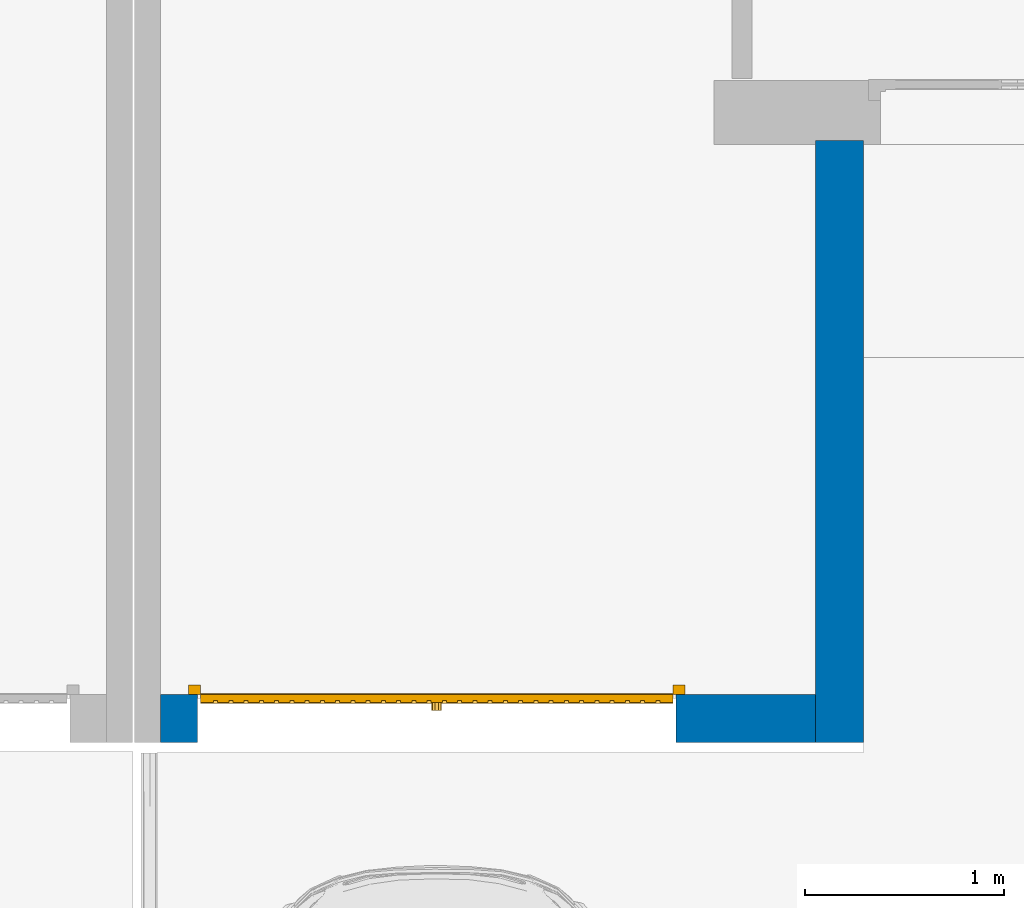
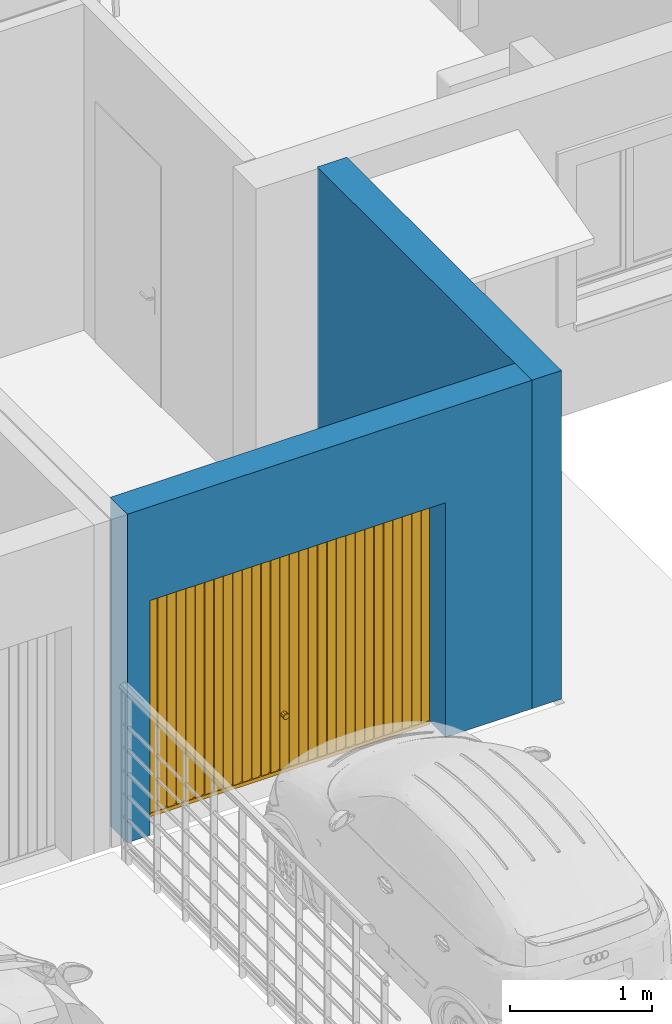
# One storey, part 6 of 33: 2 walls, 1 door, 1 opening.
"""IFC2X3 building model written with IfcOpenShell, lengths in metres."""

from ifc_helpers import new_model, entity, si_unit, converted_unit, derived_unit, direction, frame, frame_2d, origin, origin_2d_with_axis, place, context, subcontext, project, spatial, rectangle, extrude, faceted_brep, source, transform, mapped, material, material_list, layer, layer_set, layer_usage, type_object, type_shapes, element, fill, save


model = new_model("IFC2X3")

# Units and contexts
model_context = context("Model", 3, precision=1e-05, world=origin(), true_north=direction((6.12303176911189e-17, 1.0)))
context_of_model = context(None, 3, precision=1e-05, world=origin(), true_north=direction((6.12303176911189e-17, 1.0)))
body_context = subcontext(model_context, "Body", "Model", "MODEL_VIEW")
ifc_project = project(units=[si_unit("LENGTHUNIT", "METRE"), si_unit("AREAUNIT", "SQUARE_METRE"), si_unit("VOLUMEUNIT", "CUBIC_METRE"), converted_unit("PLANEANGLEUNIT", "DEGREE", entity("IfcRatioMeasure", 0.0174532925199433), si_unit("PLANEANGLEUNIT", "RADIAN"), dimensions=[0, 0, 0, 0, 0, 0, 0]), si_unit("MASSUNIT", "GRAM", prefix="KILO"), si_unit("TIMEUNIT", "SECOND"), si_unit("FREQUENCYUNIT", "HERTZ"), si_unit("THERMODYNAMICTEMPERATUREUNIT", "DEGREE_CELSIUS"), derived_unit("THERMALTRANSMITTANCEUNIT", [(si_unit("MASSUNIT", "GRAM", prefix="KILO"), 1), (si_unit("THERMODYNAMICTEMPERATUREUNIT", "KELVIN"), -1), (si_unit("TIMEUNIT", "SECOND"), -3)]), derived_unit("VOLUMETRICFLOWRATEUNIT", [(si_unit("LENGTHUNIT", "METRE"), 3), (si_unit("TIMEUNIT", "SECOND"), -1)]), si_unit("ELECTRICCURRENTUNIT", "AMPERE"), si_unit("ELECTRICVOLTAGEUNIT", "VOLT"), si_unit("POWERUNIT", "WATT"), si_unit("FORCEUNIT", "NEWTON", prefix="KILO"), si_unit("ILLUMINANCEUNIT", "LUX"), si_unit("LUMINOUSFLUXUNIT", "LUMEN"), si_unit("LUMINOUSINTENSITYUNIT", "CANDELA"), si_unit("PRESSUREUNIT", "PASCAL")], contexts=[model_context, context_of_model])

# Site, building, storey
site_placement = place(None, origin())
site = spatial("IfcSite", under=ifc_project, at=site_placement, Name="Surface", CompositionType="ELEMENT")
building_placement = place(site_placement, origin())
building = spatial("IfcBuilding", under=site, at=building_placement, CompositionType="ELEMENT")
storey_placement = place(building_placement, origin())
storey = spatial("IfcBuildingStorey", under=building, at=storey_placement, Name="Plan des fondations  Maisons 1 et 2", CompositionType="ELEMENT", Elevation=0.0)

# Wall
ifc_material_1 = material(Name="Enduit  gris")
ifc_layer_1 = layer(ifc_material_1, 0.02)
ifc_material_2 = material(Name="Parpaing")
ifc_layer_2 = layer(ifc_material_2, 0.2)
ifc_layer_3 = layer(ifc_material_1, 0.02)
ifc_layer_set = layer_set([ifc_layer_1, ifc_layer_2, ifc_layer_3], Name="Mur de base:Ext. Parpaing 2 + 20 + 2 gris")
ifc_layer_usage_1 = layer_usage(ifc_layer_set, "AXIS2", "NEGATIVE", 0.12)
wall_type = type_object("IfcWallType", Name="Mur de base:Ext. Parpaing 2 + 20 + 2 gris", PredefinedType="STANDARD", material=ifc_layer_set)
wall_1_placement = place(storey_placement, frame((72.3746263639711, 76.8877566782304, 0.0), z_axis=(0.0, 0.0, 1.0), x_axis=(0.0, 1.0, 0.0)))
element("IfcWallStandardCase", 1, at=wall_1_placement, inside=storey, type_object=wall_type, material=ifc_layer_usage_1, Name="Mur de base:Ext. Parpaing 2 + 20 + 2 gris", ObjectType="Mur de base:Ext. Parpaing 2 + 20 + 2 gris", context=body_context, shape_type="SweptSolid", body=[
    extrude(rectangle(XDim=3.02000000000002, YDim=0.239999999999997, at=frame_2d((1.51000000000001, 5.41233724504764e-16), x_axis=(-1.0, 0.0))), origin(), (0.0, 0.0, 1.0), 2.82),
])

# Wall, opening, door
ifc_layer_usage_2 = layer_usage(ifc_layer_set, "AXIS2", "NEGATIVE", 0.12)
wall_2_placement = place(storey_placement, frame((68.9696263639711, 77.0077566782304, 0.0)))
wall_2 = element("IfcWallStandardCase", 2, at=wall_2_placement, inside=storey, type_object=wall_type, material=ifc_layer_usage_2, Name="Mur de base:Ext. Parpaing 2 + 20 + 2 gris", ObjectType="Mur de base:Ext. Parpaing 2 + 20 + 2 gris", context=body_context, shape_type="SweptSolid", body=[
    extrude(rectangle(XDim=3.28499999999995, YDim=0.239999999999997, at=frame_2d((1.64249999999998, 0.0), x_axis=(-1.0, 0.0))), origin(), (0.0, 0.0, 1.0), 2.82),
])
opening_placement = place(wall_2_placement, frame((-68.9696263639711, -77.0077566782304, 0.0)))
opening = element("IfcOpeningElement", 3, at=opening_placement, cuts=wall_2, Name="Mur de base:Ext. Parpaing 2 + 20 + 2 gris", ObjectType="Opening", context=body_context, shape_type="SweptSolid", body=[
    extrude(rectangle(XDim=2.01500000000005, YDim=2.39999999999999, at=origin_2d_with_axis()), frame((70.3546263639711, 76.5877566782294, 1.00750000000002), z_axis=(0.0, 1.0, 0.0), x_axis=(0.0, 0.0, -1.0)), (0.0, 0.0, 1.0), 0.840000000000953),
])
ifc_material_3 = material(Name="Plastique - Noir")
ifc_material_4 = material(Name="Peinture - Grise")
ifc_material_list_1 = material_list([ifc_material_3, ifc_material_4])
ifc_material_list_2 = material_list([ifc_material_3, ifc_material_4])
door_style = type_object("IfcDoorStyle", Name="2.4m x 2m", ConstructionType="NOTDEFINED", OperationType="ROLLINGUP", ParameterTakesPrecedence=False, Sizeable=False, material=ifc_material_list_2)
shared_shape = source(origin(), body_context, "Body", "Brep", [
    faceted_brep([(1.17823441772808, 0.377902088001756, 0.490045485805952), (1.17738728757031, 0.377902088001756, 0.492652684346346), (1.17669426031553, 0.377902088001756, 0.494785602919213), (1.175, 0.377902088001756, 0.500000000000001), (1.17709791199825, 0.380000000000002, 0.500000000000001), (1.17928486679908, 0.380000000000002, 0.493269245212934), (1.18147182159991, 0.380000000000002, 0.486538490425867), (1.17977457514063, 0.377902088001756, 0.485305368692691), (1.21993909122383, 0.380000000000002, 0.490880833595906), (1.22135000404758, 0.380000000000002, 0.495223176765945), (1.22290208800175, 0.380000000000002, 0.500000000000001), (1.225, 0.377902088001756, 0.500000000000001), (1.22261271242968, 0.377902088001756, 0.492652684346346), (1.22022542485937, 0.377902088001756, 0.485305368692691), (1.21852817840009, 0.380000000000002, 0.486538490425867), (1.21397542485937, 0.377902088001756, 0.480764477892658), (1.20772542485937, 0.377902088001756, 0.476223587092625), (1.20707713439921, 0.380000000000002, 0.478218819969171), (1.21280265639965, 0.380000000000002, 0.482378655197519), (1.19292286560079, 0.380000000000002, 0.478218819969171), (1.2, 0.380000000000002, 0.478218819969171), (1.2, 0.377902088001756, 0.476223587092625), (1.19227457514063, 0.377902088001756, 0.476223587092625), (1.18602457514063, 0.377902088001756, 0.480764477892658), (1.18719734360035, 0.380000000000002, 0.482378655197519), (1.22176558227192, 0.377902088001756, 0.509954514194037), (1.22261271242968, 0.377902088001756, 0.507347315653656), (1.22330573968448, 0.377902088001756, 0.505214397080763), (1.22071513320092, 0.380000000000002, 0.506730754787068), (1.21852817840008, 0.380000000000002, 0.513461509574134), (1.22022542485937, 0.377902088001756, 0.514694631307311), (1.18006090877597, 0.380000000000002, 0.5091191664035), (1.17864999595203, 0.380000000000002, 0.504776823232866), (1.17738728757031, 0.377902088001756, 0.507347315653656), (1.17977457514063, 0.377902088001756, 0.514694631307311), (1.18147182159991, 0.380000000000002, 0.513461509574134), (1.18602457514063, 0.377902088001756, 0.519235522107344), (1.19227457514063, 0.377902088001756, 0.523776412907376), (1.19292286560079, 0.380000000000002, 0.521781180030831), (1.18719734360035, 0.380000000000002, 0.517621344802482), (1.20707713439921, 0.380000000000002, 0.521781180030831), (1.2, 0.380000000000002, 0.521781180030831), (1.2, 0.377902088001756, 0.523776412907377), (1.20772542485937, 0.377902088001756, 0.523776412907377), (1.21397542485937, 0.377902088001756, 0.519235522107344), (1.21280265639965, 0.380000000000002, 0.517621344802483), (1.2, 0.380000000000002, 0.500000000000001), (1.2, 0.340000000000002, 0.500000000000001), (1.17977457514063, 0.340000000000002, 0.485305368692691), (1.18602457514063, 0.340000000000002, 0.480764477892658), (1.19227457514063, 0.340000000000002, 0.476223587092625), (1.2, 0.340000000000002, 0.476223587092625), (1.17805454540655, 0.340000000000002, 0.490599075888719), (1.17652727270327, 0.340000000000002, 0.49529953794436), (1.175, 0.340000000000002, 0.500000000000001), (1.20772542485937, 0.340000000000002, 0.476223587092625), (1.21397542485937, 0.340000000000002, 0.480764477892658), (1.22022542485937, 0.340000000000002, 0.485305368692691), (1.22261271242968, 0.340000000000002, 0.492652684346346), (1.22499999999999, 0.340000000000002, 0.500000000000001), (1.22347272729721, 0.340000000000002, 0.50470046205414), (1.17738728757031, 0.340000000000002, 0.507347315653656), (1.17977457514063, 0.340000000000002, 0.514694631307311), (1.18602457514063, 0.340000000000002, 0.519235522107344), (1.19227457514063, 0.340000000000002, 0.523776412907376), (1.22194545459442, 0.340000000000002, 0.509400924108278), (1.22022542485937, 0.340000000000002, 0.514694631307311), (1.21397542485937, 0.340000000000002, 0.519235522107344), (1.20772542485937, 0.340000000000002, 0.523776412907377), (1.2, 0.340000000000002, 0.523776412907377)], [[[0, 1, 2, 3, 4, 5, 6, 7]], [[8, 9, 10, 11, 12, 13, 14]], [[13, 15, 16, 17, 18, 14]], [[19, 20, 17, 16, 21, 22]], [[22, 23, 7, 6, 24, 19]], [[25, 26, 27, 11, 10, 28, 29, 30]], [[31, 32, 4, 3, 33, 34, 35]], [[34, 36, 37, 38, 39, 35]], [[40, 41, 38, 37, 42, 43]], [[43, 44, 30, 29, 45, 40]], [[46, 19, 24]], [[46, 24, 6]], [[46, 6, 5]], [[46, 5, 4]], [[46, 4, 32]], [[46, 20, 19]], [[46, 17, 20]], [[46, 18, 17]], [[46, 14, 18]], [[46, 8, 14]], [[46, 9, 8]], [[46, 10, 9]], [[46, 32, 31]], [[46, 31, 35]], [[46, 35, 39]], [[46, 39, 38]], [[46, 38, 41]], [[46, 28, 10]], [[46, 29, 28]], [[46, 45, 29]], [[46, 40, 45]], [[46, 41, 40]], [[47, 48, 49]], [[47, 49, 50]], [[47, 50, 51]], [[47, 52, 48]], [[47, 53, 52]], [[47, 54, 53]], [[47, 51, 55]], [[47, 55, 56]], [[47, 56, 57]], [[47, 57, 58]], [[47, 58, 59]], [[47, 59, 60]], [[47, 61, 54]], [[47, 62, 61]], [[47, 63, 62]], [[47, 64, 63]], [[47, 60, 65]], [[47, 65, 66]], [[47, 66, 67]], [[47, 67, 68]], [[47, 68, 69]], [[47, 69, 64]], [[13, 57, 56, 55, 16, 15]], [[57, 13, 12, 11, 59, 58]], [[52, 53, 54, 3, 2, 1, 0, 7, 48]], [[21, 16, 55, 51, 50, 22]], [[50, 49, 48, 7, 23, 22]], [[62, 63, 64, 37, 36, 34]], [[33, 3, 54, 61, 62, 34]], [[65, 60, 59, 11, 27, 26, 25, 30, 66]], [[42, 37, 64, 69, 68, 43]], [[68, 67, 66, 30, 44, 43]]]),
    faceted_brep([(0.0149999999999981, 0.29500000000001, 2.0), (2.385, 0.294999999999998, 2.0), (2.385, 0.344999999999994, 2.0), (0.0149999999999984, 0.345000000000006, 2.0), (2.385, 0.294999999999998, 0.0), (0.0149999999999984, 0.29500000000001, 0.0), (0.0149999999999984, 0.344999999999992, 0.0), (2.385, 0.344999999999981, 0.0), (2.31854838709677, 0.330000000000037, 1.97), (2.31854838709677, 0.330000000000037, 0.0300000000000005), (2.29854838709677, 0.330000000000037, 0.0300000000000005), (2.29854838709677, 0.330000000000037, 1.97), (2.29854838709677, 0.339999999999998, 0.0300000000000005), (2.29854838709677, 0.339999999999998, 1.97), (2.24209677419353, 0.339999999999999, 0.0300000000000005), (2.24209677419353, 0.339999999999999, 1.97), (2.24209677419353, 0.330000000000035, 0.0300000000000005), (2.24209677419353, 0.330000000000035, 1.97), (2.22209677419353, 0.330000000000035, 0.0300000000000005), (2.22209677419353, 0.330000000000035, 1.97), (2.22209677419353, 0.339999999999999, 0.0300000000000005), (2.22209677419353, 0.339999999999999, 1.97), (2.1656451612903, 0.339999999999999, 0.0300000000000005), (2.1656451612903, 0.339999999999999, 1.97), (2.1656451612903, 0.330000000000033, 0.0300000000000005), (2.1656451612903, 0.330000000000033, 1.97), (2.1456451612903, 0.330000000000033, 0.0300000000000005), (2.1456451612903, 0.330000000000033, 1.97), (2.1456451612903, 0.339999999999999, 0.0300000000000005), (2.1456451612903, 0.339999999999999, 1.97), (2.08919354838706, 0.339999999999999, 0.0300000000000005), (2.08919354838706, 0.339999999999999, 1.97), (2.08919354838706, 0.33000000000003, 0.0300000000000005), (2.08919354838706, 0.33000000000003, 1.97), (2.06919354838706, 0.330000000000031, 0.0300000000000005), (2.06919354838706, 0.330000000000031, 1.97), (2.06919354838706, 0.339999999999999, 0.0300000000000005), (2.06919354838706, 0.339999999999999, 1.97), (2.01274193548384, 0.339999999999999, 0.0300000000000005), (2.01274193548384, 0.339999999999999, 1.97), (2.01274193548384, 0.330000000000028, 0.0300000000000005), (2.01274193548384, 0.330000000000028, 1.97), (1.99274193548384, 0.330000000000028, 0.0300000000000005), (1.99274193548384, 0.330000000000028, 1.97), (1.99274193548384, 0.339999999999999, 0.0300000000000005), (1.99274193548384, 0.339999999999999, 1.97), (1.9362903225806, 0.34, 0.0300000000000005), (1.9362903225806, 0.34, 1.97), (1.9362903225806, 0.330000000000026, 0.0300000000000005), (1.9362903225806, 0.330000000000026, 1.97), (1.9162903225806, 0.330000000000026, 0.0300000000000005), (1.9162903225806, 0.330000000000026, 1.97), (1.9162903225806, 0.34, 0.0300000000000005), (1.9162903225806, 0.34, 1.97), (1.85983870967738, 0.34, 0.0300000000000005), (1.85983870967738, 0.34, 1.97), (1.85983870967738, 0.330000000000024, 0.0300000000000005), (1.85983870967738, 0.330000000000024, 1.97), (1.83983870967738, 0.330000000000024, 0.0300000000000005), (1.83983870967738, 0.330000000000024, 1.97), (1.83983870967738, 0.34, 0.0300000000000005), (1.83983870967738, 0.34, 1.97), (1.78338709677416, 0.34, 0.0300000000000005), (1.78338709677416, 0.34, 1.97), (1.78338709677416, 0.330000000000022, 0.0300000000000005), (1.78338709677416, 0.330000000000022, 1.97), (1.76338709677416, 0.330000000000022, 0.0300000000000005), (1.76338709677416, 0.330000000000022, 1.97), (1.76338709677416, 0.34, 0.0300000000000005), (1.76338709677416, 0.34, 1.97), (1.70693548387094, 0.34, 0.0300000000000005), (1.70693548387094, 0.34, 1.97), (1.70693548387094, 0.330000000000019, 0.0300000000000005), (1.70693548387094, 0.330000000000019, 1.97), (1.68693548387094, 0.330000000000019, 0.0300000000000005), (1.68693548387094, 0.330000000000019, 1.97), (1.68693548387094, 0.34, 0.0300000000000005), (1.68693548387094, 0.34, 1.97), (1.63048387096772, 0.340000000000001, 0.0300000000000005), (1.63048387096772, 0.340000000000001, 1.97), (1.63048387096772, 0.330000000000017, 0.0300000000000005), (1.63048387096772, 0.330000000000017, 1.97), (1.61048387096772, 0.330000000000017, 0.0300000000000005), (1.61048387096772, 0.330000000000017, 1.97), (1.61048387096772, 0.340000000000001, 0.0300000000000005), (1.61048387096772, 0.340000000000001, 1.97), (1.55403225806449, 0.340000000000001, 0.0300000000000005), (1.55403225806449, 0.340000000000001, 1.97), (1.55403225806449, 0.330000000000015, 0.0300000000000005), (1.55403225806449, 0.330000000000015, 1.97), (1.53403225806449, 0.330000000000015, 0.0300000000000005), (1.53403225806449, 0.330000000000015, 1.97), (1.53403225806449, 0.340000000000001, 0.0300000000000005), (1.53403225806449, 0.340000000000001, 1.97), (1.47758064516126, 0.340000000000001, 0.0300000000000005), (1.47758064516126, 0.340000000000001, 1.97), (1.47758064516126, 0.330000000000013, 0.0300000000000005), (1.47758064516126, 0.330000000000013, 1.97), (1.45758064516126, 0.330000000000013, 0.0300000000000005), (1.45758064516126, 0.330000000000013, 1.97), (1.45758064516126, 0.340000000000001, 0.0300000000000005), (1.45758064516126, 0.340000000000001, 1.97), (1.40112903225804, 0.340000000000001, 0.0300000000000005), (1.40112903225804, 0.340000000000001, 1.97), (1.40112903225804, 0.33000000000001, 0.0300000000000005), (1.40112903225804, 0.33000000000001, 1.97), (1.38112903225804, 0.33000000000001, 0.0300000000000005), (1.38112903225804, 0.33000000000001, 1.97), (1.38112903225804, 0.340000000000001, 0.0300000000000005), (1.38112903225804, 0.340000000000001, 1.97), (1.32467741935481, 0.340000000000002, 0.0300000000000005), (1.32467741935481, 0.340000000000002, 1.97), (1.32467741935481, 0.330000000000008, 0.0300000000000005), (1.32467741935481, 0.330000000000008, 1.97), (1.30467741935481, 0.330000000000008, 0.0300000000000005), (1.30467741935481, 0.330000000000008, 1.97), (1.30467741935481, 0.340000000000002, 0.0300000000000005), (1.30467741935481, 0.340000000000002, 1.97), (1.24822580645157, 0.340000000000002, 0.0300000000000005), (1.24822580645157, 0.340000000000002, 1.97), (1.24822580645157, 0.330000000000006, 0.0300000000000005), (1.24822580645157, 0.330000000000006, 1.97), (1.22822580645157, 0.330000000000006, 0.0300000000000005), (1.22822580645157, 0.330000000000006, 1.97), (1.22822580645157, 0.340000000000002, 0.0300000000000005), (1.22822580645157, 0.340000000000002, 1.97), (1.17177419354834, 0.340000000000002, 0.0300000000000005), (1.17177419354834, 0.340000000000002, 1.97), (1.17177419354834, 0.330000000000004, 0.0300000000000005), (1.17177419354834, 0.330000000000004, 1.97), (1.15177419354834, 0.330000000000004, 0.0300000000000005), (1.15177419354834, 0.330000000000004, 1.97), (1.15177419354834, 0.340000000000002, 0.0300000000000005), (1.15177419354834, 0.340000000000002, 1.97), (1.09532258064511, 0.340000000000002, 0.0300000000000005), (1.09532258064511, 0.340000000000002, 1.97), (1.09532258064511, 0.330000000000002, 0.0300000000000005), (1.09532258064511, 0.330000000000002, 1.97), (1.07532258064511, 0.330000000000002, 0.0300000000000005), (1.07532258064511, 0.330000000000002, 1.97), (1.07532258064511, 0.340000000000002, 0.0300000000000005), (1.07532258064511, 0.340000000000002, 1.97), (1.01887096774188, 0.340000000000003, 0.0300000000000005), (1.01887096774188, 0.340000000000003, 1.97), (1.01887096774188, 0.33, 0.0300000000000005), (1.01887096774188, 0.33, 1.97), (0.998870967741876, 0.33, 0.0300000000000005), (0.998870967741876, 0.33, 1.97), (0.998870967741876, 0.340000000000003, 0.0300000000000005), (0.998870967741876, 0.340000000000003, 1.97), (0.942419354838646, 0.340000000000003, 0.0300000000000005), (0.942419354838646, 0.340000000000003, 1.97), (0.942419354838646, 0.329999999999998, 0.0300000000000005), (0.942419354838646, 0.329999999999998, 1.97), (0.922419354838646, 0.329999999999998, 0.0300000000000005), (0.922419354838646, 0.329999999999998, 1.97), (0.922419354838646, 0.340000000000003, 0.0300000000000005), (0.922419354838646, 0.340000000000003, 1.97), (0.865967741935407, 0.340000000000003, 0.0300000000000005), (0.865967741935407, 0.340000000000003, 1.97), (0.865967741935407, 0.329999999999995, 0.0300000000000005), (0.865967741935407, 0.329999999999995, 1.97), (0.845967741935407, 0.329999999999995, 0.0300000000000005), (0.845967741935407, 0.329999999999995, 1.97), (0.845967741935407, 0.340000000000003, 0.0300000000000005), (0.845967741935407, 0.340000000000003, 1.97), (0.789516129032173, 0.340000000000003, 0.0300000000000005), (0.789516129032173, 0.340000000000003, 1.97), (0.789516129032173, 0.329999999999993, 0.0300000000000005), (0.789516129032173, 0.329999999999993, 1.97), (0.769516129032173, 0.329999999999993, 0.0300000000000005), (0.769516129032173, 0.329999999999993, 1.97), (0.769516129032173, 0.340000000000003, 0.0300000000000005), (0.769516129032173, 0.340000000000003, 1.97), (0.713064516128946, 0.340000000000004, 0.0300000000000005), (0.713064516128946, 0.340000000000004, 1.97), (0.713064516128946, 0.329999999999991, 0.0300000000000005), (0.713064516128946, 0.329999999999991, 1.97), (0.693064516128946, 0.329999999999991, 0.0300000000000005), (0.693064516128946, 0.329999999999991, 1.97), (0.693064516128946, 0.340000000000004, 0.0300000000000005), (0.693064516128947, 0.340000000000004, 1.97), (0.636612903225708, 0.340000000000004, 0.0300000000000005), (0.636612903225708, 0.340000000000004, 1.97), (0.636612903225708, 0.329999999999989, 0.0300000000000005), (0.636612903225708, 0.329999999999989, 1.97), (0.616612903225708, 0.329999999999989, 0.0300000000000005), (0.616612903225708, 0.329999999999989, 1.97), (0.616612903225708, 0.340000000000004, 0.0300000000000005), (0.616612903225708, 0.340000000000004, 1.97), (0.56016129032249, 0.340000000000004, 0.0300000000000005), (0.56016129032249, 0.340000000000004, 1.97), (0.56016129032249, 0.329999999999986, 0.0300000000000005), (0.56016129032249, 0.329999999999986, 1.97), (0.54016129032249, 0.329999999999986, 0.0300000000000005), (0.54016129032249, 0.329999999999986, 1.97), (0.54016129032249, 0.340000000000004, 0.0300000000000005), (0.54016129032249, 0.340000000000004, 1.97), (0.483709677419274, 0.340000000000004, 0.0300000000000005), (0.483709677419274, 0.340000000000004, 1.97), (0.483709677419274, 0.329999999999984, 0.0300000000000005), (0.483709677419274, 0.329999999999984, 1.97), (0.463709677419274, 0.329999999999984, 0.0300000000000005), (0.463709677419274, 0.329999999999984, 1.97), (0.463709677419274, 0.340000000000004, 0.0300000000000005), (0.463709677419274, 0.340000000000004, 1.97), (0.407258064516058, 0.340000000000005, 0.0300000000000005), (0.407258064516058, 0.340000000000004, 1.97), (0.407258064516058, 0.329999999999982, 0.0300000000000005), (0.407258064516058, 0.329999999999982, 1.97), (0.387258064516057, 0.329999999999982, 0.0300000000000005), (0.387258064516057, 0.329999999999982, 1.97), (0.387258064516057, 0.340000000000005, 0.0300000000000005), (0.387258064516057, 0.340000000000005, 1.97), (0.330806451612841, 0.340000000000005, 0.0300000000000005), (0.330806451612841, 0.340000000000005, 1.97), (0.330806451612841, 0.32999999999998, 0.0300000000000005), (0.330806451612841, 0.32999999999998, 1.97), (0.310806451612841, 0.32999999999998, 0.0300000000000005), (0.310806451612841, 0.32999999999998, 1.97), (0.310806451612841, 0.340000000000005, 0.0300000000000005), (0.310806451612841, 0.340000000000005, 1.97), (0.254354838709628, 0.340000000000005, 0.0300000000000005), (0.254354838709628, 0.340000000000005, 1.97), (0.254354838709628, 0.329999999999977, 0.0300000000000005), (0.254354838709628, 0.329999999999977, 1.97), (0.234354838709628, 0.329999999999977, 0.0300000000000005), (0.234354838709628, 0.329999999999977, 1.97), (0.234354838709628, 0.340000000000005, 0.0300000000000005), (0.234354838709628, 0.340000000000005, 1.97), (0.177903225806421, 0.340000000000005, 0.0300000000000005), (0.177903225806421, 0.340000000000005, 1.97), (0.177903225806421, 0.329999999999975, 0.0300000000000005), (0.177903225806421, 0.329999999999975, 1.97), (0.15790322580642, 0.329999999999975, 0.0300000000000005), (0.15790322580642, 0.329999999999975, 1.97), (0.15790322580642, 0.340000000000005, 0.0300000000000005), (0.15790322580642, 0.340000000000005, 1.97), (0.101451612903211, 0.340000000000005, 0.0300000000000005), (0.101451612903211, 0.340000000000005, 1.97), (0.101451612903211, 0.329999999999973, 0.0300000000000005), (0.101451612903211, 0.329999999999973, 1.97), (0.0814516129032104, 0.329999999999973, 0.0300000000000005), (0.0814516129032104, 0.329999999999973, 1.97), (0.0814516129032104, 0.340000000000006, 0.0300000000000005), (0.0814516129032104, 0.340000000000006, 1.97), (0.0149999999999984, 0.340000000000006, 0.0300000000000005), (0.0149999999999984, 0.340000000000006, 1.97), (0.0149999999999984, 0.345000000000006, 1.97), (0.0149999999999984, 0.344999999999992, 0.0300000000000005), (0.0149999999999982, 0.29500000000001, 0.0300000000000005), (0.0149999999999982, 0.300000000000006, 0.0300000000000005), (0.0149999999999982, 0.300000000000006, 1.97), (0.0149999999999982, 0.29500000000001, 1.97), (2.385, 0.299999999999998, 0.0300000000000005), (2.385, 0.299999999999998, 1.97), (2.385, 0.294999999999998, 1.97), (2.385, 0.294999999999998, 0.0300000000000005), (2.385, 0.344999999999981, 0.0300000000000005), (2.385, 0.339999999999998, 0.0300000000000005), (2.385, 0.339999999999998, 1.97), (2.385, 0.344999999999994, 1.97), (2.31854838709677, 0.339999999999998, 0.0300000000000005), (2.31854838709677, 0.339999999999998, 1.97)], [[[0, 1, 2, 3]], [[4, 5, 6, 7]], [[8, 9, 10, 11]], [[11, 10, 12, 13]], [[13, 12, 14, 15]], [[15, 14, 16, 17]], [[17, 16, 18, 19]], [[19, 18, 20, 21]], [[21, 20, 22, 23]], [[23, 22, 24, 25]], [[25, 24, 26, 27]], [[27, 26, 28, 29]], [[29, 28, 30, 31]], [[31, 30, 32, 33]], [[33, 32, 34, 35]], [[35, 34, 36, 37]], [[37, 36, 38, 39]], [[39, 38, 40, 41]], [[41, 40, 42, 43]], [[43, 42, 44, 45]], [[45, 44, 46, 47]], [[47, 46, 48, 49]], [[49, 48, 50, 51]], [[51, 50, 52, 53]], [[53, 52, 54, 55]], [[55, 54, 56, 57]], [[57, 56, 58, 59]], [[59, 58, 60, 61]], [[61, 60, 62, 63]], [[63, 62, 64, 65]], [[65, 64, 66, 67]], [[67, 66, 68, 69]], [[69, 68, 70, 71]], [[71, 70, 72, 73]], [[73, 72, 74, 75]], [[75, 74, 76, 77]], [[77, 76, 78, 79]], [[79, 78, 80, 81]], [[81, 80, 82, 83]], [[83, 82, 84, 85]], [[85, 84, 86, 87]], [[87, 86, 88, 89]], [[89, 88, 90, 91]], [[91, 90, 92, 93]], [[93, 92, 94, 95]], [[95, 94, 96, 97]], [[97, 96, 98, 99]], [[99, 98, 100, 101]], [[101, 100, 102, 103]], [[103, 102, 104, 105]], [[105, 104, 106, 107]], [[107, 106, 108, 109]], [[109, 108, 110, 111]], [[111, 110, 112, 113]], [[113, 112, 114, 115]], [[115, 114, 116, 117]], [[117, 116, 118, 119]], [[119, 118, 120, 121]], [[121, 120, 122, 123]], [[123, 122, 124, 125]], [[125, 124, 126, 127]], [[127, 126, 128, 129]], [[129, 128, 130, 131]], [[131, 130, 132, 133]], [[133, 132, 134, 135]], [[135, 134, 136, 137]], [[137, 136, 138, 139]], [[139, 138, 140, 141]], [[141, 140, 142, 143]], [[143, 142, 144, 145]], [[145, 144, 146, 147]], [[147, 146, 148, 149]], [[149, 148, 150, 151]], [[151, 150, 152, 153]], [[153, 152, 154, 155]], [[155, 154, 156, 157]], [[157, 156, 158, 159]], [[159, 158, 160, 161]], [[161, 160, 162, 163]], [[163, 162, 164, 165]], [[165, 164, 166, 167]], [[167, 166, 168, 169]], [[169, 168, 170, 171]], [[171, 170, 172, 173]], [[173, 172, 174, 175]], [[175, 174, 176, 177]], [[177, 176, 178, 179]], [[179, 178, 180, 181]], [[181, 180, 182, 183]], [[183, 182, 184, 185]], [[185, 184, 186, 187]], [[187, 186, 188, 189]], [[189, 188, 190, 191]], [[191, 190, 192, 193]], [[193, 192, 194, 195]], [[195, 194, 196, 197]], [[197, 196, 198, 199]], [[199, 198, 200, 201]], [[201, 200, 202, 203]], [[203, 202, 204, 205]], [[205, 204, 206, 207]], [[207, 206, 208, 209]], [[209, 208, 210, 211]], [[211, 210, 212, 213]], [[213, 212, 214, 215]], [[215, 214, 216, 217]], [[217, 216, 218, 219]], [[219, 218, 220, 221]], [[221, 220, 222, 223]], [[223, 222, 224, 225]], [[225, 224, 226, 227]], [[227, 226, 228, 229]], [[229, 228, 230, 231]], [[231, 230, 232, 233]], [[233, 232, 234, 235]], [[235, 234, 236, 237]], [[237, 236, 238, 239]], [[239, 238, 240, 241]], [[241, 240, 242, 243]], [[243, 242, 244, 245]], [[245, 244, 246, 247]], [[0, 3, 248, 247, 246, 249, 6, 5, 250, 251, 252, 253]], [[252, 251, 254, 255]], [[2, 1, 256, 255, 254, 257, 4, 7, 258, 259, 260, 261]], [[260, 259, 262, 263]], [[9, 8, 263, 262]], [[256, 253, 252, 255]], [[2, 261, 248, 3]], [[256, 1, 0, 253]], [[4, 257, 250, 5]], [[258, 7, 6, 249]], [[250, 257, 254, 251]], [[258, 249, 246, 244, 242, 240, 238, 236, 234, 232, 230, 228, 226, 224, 222, 220, 218, 216, 214, 212, 210, 208, 206, 204, 202, 200, 198, 196, 194, 192, 190, 188, 186, 184, 182, 180, 178, 176, 174, 172, 170, 168, 166, 164, 162, 160, 158, 156, 154, 152, 150, 148, 146, 144, 142, 140, 138, 136, 134, 132, 130, 128, 126, 124, 122, 120, 118, 116, 114, 112, 110, 108, 106, 104, 102, 100, 98, 96, 94, 92, 90, 88, 86, 84, 82, 80, 78, 76, 74, 72, 70, 68, 66, 64, 62, 60, 58, 56, 54, 52, 50, 48, 46, 44, 42, 40, 38, 36, 34, 32, 30, 28, 26, 24, 22, 20, 18, 16, 14, 12, 10, 9, 262, 259]], [[248, 261, 260, 263, 8, 11, 13, 15, 17, 19, 21, 23, 25, 27, 29, 31, 33, 35, 37, 39, 41, 43, 45, 47, 49, 51, 53, 55, 57, 59, 61, 63, 65, 67, 69, 71, 73, 75, 77, 79, 81, 83, 85, 87, 89, 91, 93, 95, 97, 99, 101, 103, 105, 107, 109, 111, 113, 115, 117, 119, 121, 123, 125, 127, 129, 131, 133, 135, 137, 139, 141, 143, 145, 147, 149, 151, 153, 155, 157, 159, 161, 163, 165, 167, 169, 171, 173, 175, 177, 179, 181, 183, 185, 187, 189, 191, 193, 195, 197, 199, 201, 203, 205, 207, 209, 211, 213, 215, 217, 219, 221, 223, 225, 227, 229, 231, 233, 235, 237, 239, 241, 243, 245, 247]]]),
    faceted_brep([(0.0149999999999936, 0.25, 0.0), (-0.0450000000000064, 0.25, 0.0), (-0.0450000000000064, 0.3, 0.0), (0.0149999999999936, 0.3, 0.0), (0.0149999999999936, 0.25, 2.0), (2.385, 0.25, 2.0), (2.385, 0.25, 0.0), (2.445, 0.25, 0.0), (2.445, 0.25, 2.06000000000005), (-0.0450000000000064, 0.25, 2.06000000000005), (-0.0450000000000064, 0.3, 2.06000000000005), (2.445, 0.3, 2.06000000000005), (2.445, 0.3, 0.0), (2.385, 0.3, 0.0), (2.385, 0.3, 2.0), (0.0149999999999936, 0.3, 2.0)], [[[0, 1, 2, 3]], [[1, 0, 4, 5, 6, 7, 8, 9]], [[2, 1, 9, 10]], [[3, 2, 10, 11, 12, 13, 14, 15]], [[0, 3, 15, 4]], [[5, 14, 13, 6]], [[6, 13, 12, 7]], [[11, 8, 7, 12]], [[10, 9, 8, 11]], [[4, 15, 14, 5]]]),
])
type_shapes(door_style, [shared_shape])
door_placement = place(opening_placement, frame((71.5546263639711, 77.4277566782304, 0.0), z_axis=(0.0, 0.0, 1.0), x_axis=(-1.0, 0.0, 0.0)))
door = element("IfcDoor", 4, at=door_placement, inside=storey, type_object=door_style, material=ifc_material_list_1, Name="Garage basculante:2.4m x 2m", ObjectType="2.4m x 2m", OverallHeight=2.39999999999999, OverallWidth=2.01500000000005, context=body_context, shape_type="MappedRepresentation", body=[
    mapped(shared_shape, transform((0.0, 0.0, 0.0), scale=1.0)),
])
fill(opening, door)

save(model, "model.ifc")
